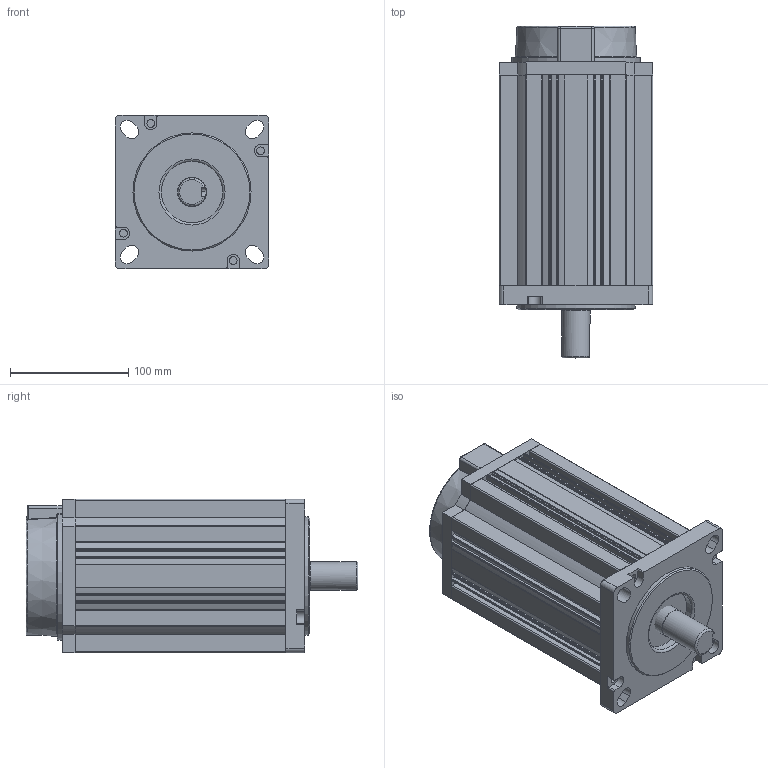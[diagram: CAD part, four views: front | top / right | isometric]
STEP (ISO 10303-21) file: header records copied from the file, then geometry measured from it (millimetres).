
FILE_DESCRIPTION(/* description */ (''),/* implementation_level */ '2;1');
FILE_NAME(/* name */ '130BYG350B-X.stp',/* time_stamp */ '2024-08-16T14:43:46+08:00',/* author */ (''),/* organization */ (''),/* preprocessor_version */ 'ST-DEVELOPER v18.1',/* originating_system */ 'SIEMENS PLM Software NX 2000',/* authorisation */ '');
FILE_SCHEMA (('AUTOMOTIVE_DESIGN { 1 0 10303 214 3 1 1 1 }'));
Length unit declared in the file: millimetre
Products named in the file (1): 925032A4A3696tw5
Bounding box: 130 x 281 x 130 mm (x, y, z)
Volume: 3302035.8 mm3; surface area: 273708.4 mm2
Topology: 5 solids, 5 shells, 279 faces, 778 edges, 514 vertices
Faces by surface type: plane 133, cylinder 126, bspline 10, torus 6, cone 2, sphere 2
Full cylindrical faces by diameter (mm): 6.5 x12, 10.5 x4, 24 x1, 24.7 x1, 52 x1, 100 x1
Entity records: 9170 total; most frequent: CARTESIAN_POINT 1892, DIRECTION 1529, ORIENTED_EDGE 1478, EDGE_CURVE 739, AXIS2_PLACEMENT_3D 540, VERTEX_POINT 500, LINE 449, VECTOR 449
